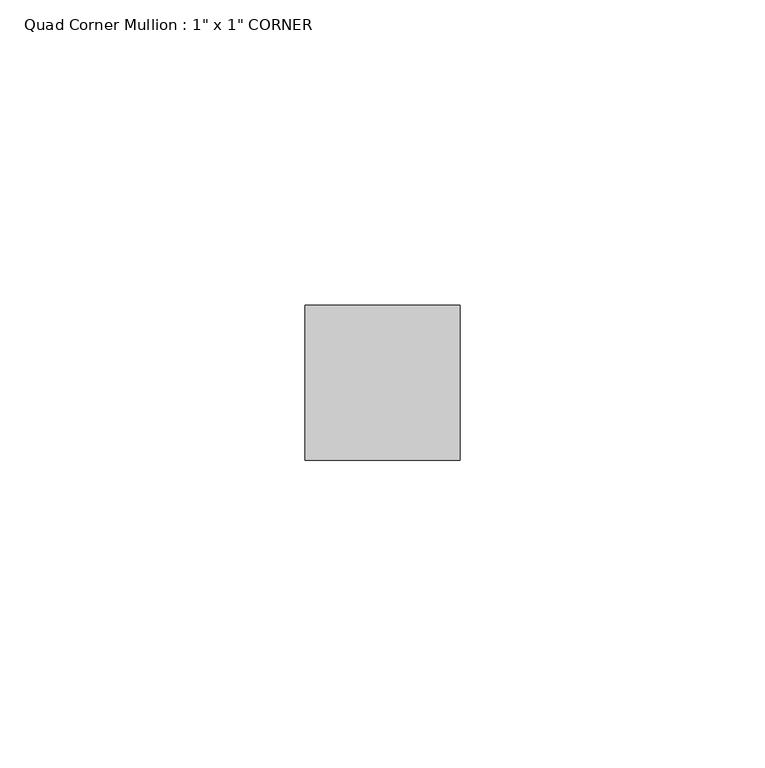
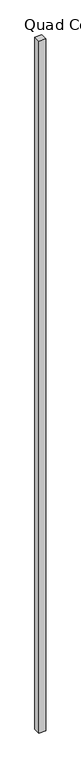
"""IFC4 building model written with IfcOpenShell, lengths in millimetres: member geometry."""

from ifc_helpers import new_model, si_unit, frame, origin, place, context, project, spatial, polyline, outline, extrude, source, transform, mapped, element, save


def member_93ef2623(model_context):
    return source(origin(), model_context, "Body", "SweptSolid", [
        extrude(outline(polyline([(0.0, 25.4), (0.0, 0.0), (-25.4, 0.0), (-25.4, 25.4), (0.0, 25.4)])), frame((0.0, 0.0, -2679.7), z_axis=(0.0, 0.0, 1.0), x_axis=(1.0, 0.0, 0.0)), (0.0, 0.0, 1.0), 2679.7),
    ])


if __name__ == "__main__":
    model = new_model("IFC4")
    model_context = context("Model", 3, world=origin())
    ifc_project = project(units=[si_unit("LENGTHUNIT", "METRE", prefix="MILLI")], contexts=[model_context])
    site = spatial("IfcSite", under=ifc_project)
    building = spatial("IfcBuilding", under=site)
    placement = place(None, origin())
    member_shape = member_93ef2623(model_context)
    element("IfcMember", 1, ObjectType="Quad Corner Mullion : 1\" x 1\" CORNER", at=placement, inside=building, context=model_context, shape_type="MappedRepresentation", body=[
        mapped(member_shape, transform((0.0, 0.0, 0.0), x_axis=(1.0, 0.0, 0.0), y_axis=(0.0, 1.0, 0.0), z_axis=(0.0, 0.0, 1.0))),
    ])
    save(model, "model.ifc")
